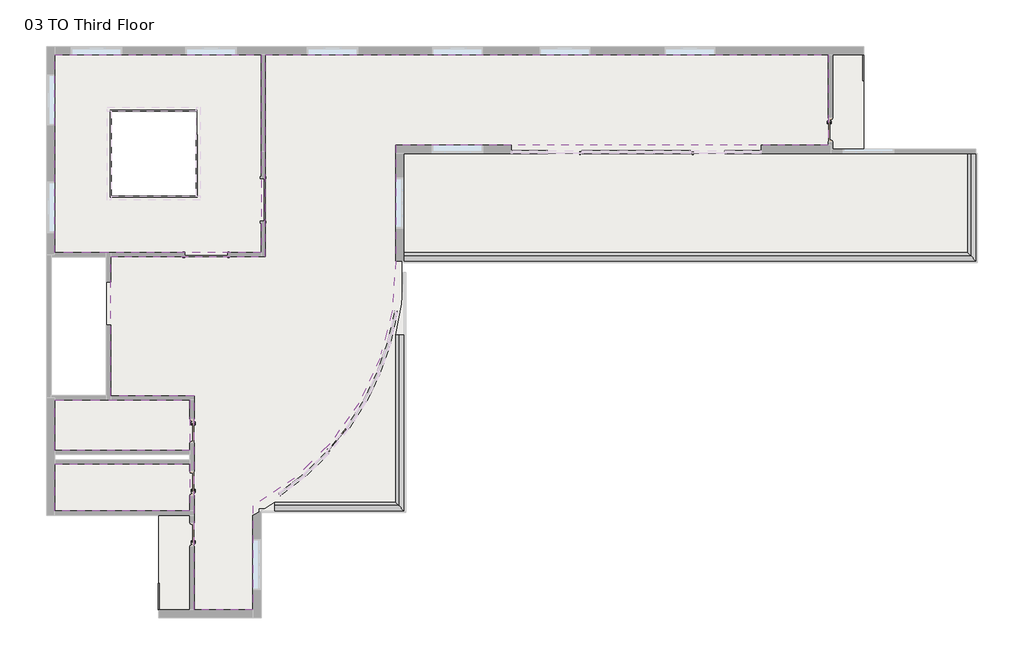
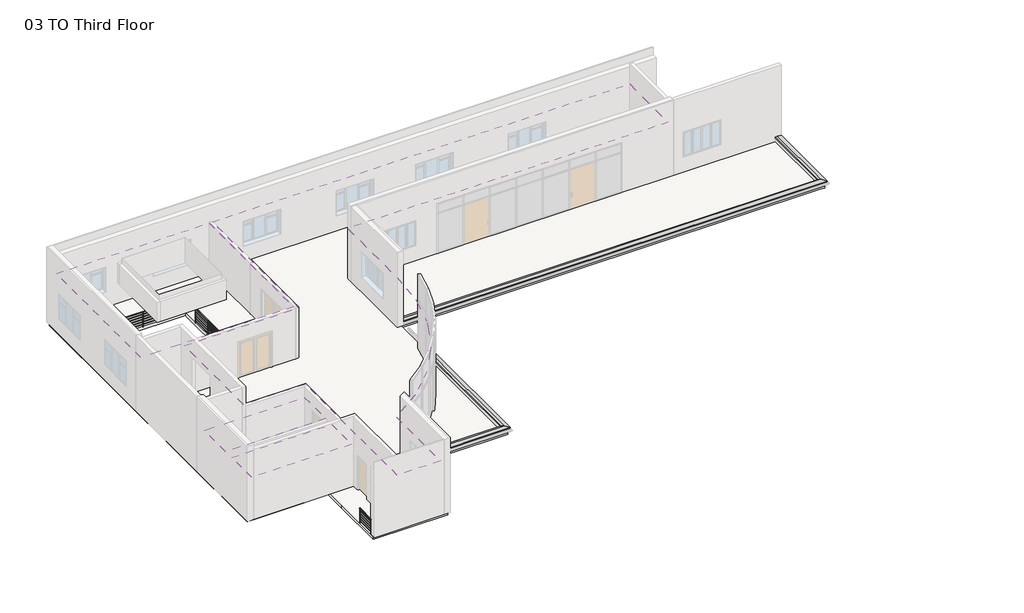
# One storey, part 3 of 3: 4 coverings, 4 proxies, 3 railings, 1 slab.
"""IFC4 building model written with IfcOpenShell, lengths in millimetres."""

from ifc_helpers import new_model, si_unit, point, frame, frame_2d, origin, place, context, project, spatial, polyline, circle_curve, ellipse_curve, trimmed, segment, composite_curve, outline, extrude, faceted_brep, element, save
from ifc_brep_helpers import plane_surface, cylinder_surface, advanced_brep

model = new_model("IFC4")

# Units and contexts
model_context = context("Model", 3, world=origin())
ifc_project = project(units=[si_unit("LENGTHUNIT", "METRE", prefix="MILLI")], contexts=[model_context])

# Site, building, storey
site = spatial("IfcSite", under=ifc_project)
building = spatial("IfcBuilding", under=site)
storey = spatial("IfcBuildingStorey", under=building, Name="03 TO Third Floor", Elevation=9144.0)

# Proxies
placement = place(None, origin())
element("IfcBuildingElementProxy", 1, Name="Wall Sweeps", at=placement, inside=storey, context=model_context, shape_type="Brep", body=[
    faceted_brep([(-4282.7273699, 106.1746638, 9410.7), (-4282.7273699, 334.7746638, 9448.8), (-4282.7273699, 461.7746638, 9410.7), (-4282.7273699, 461.7746638, 9347.2), (-4282.7273699, 106.1746638, 9347.2), (20101.2726301, 106.1746638, 9410.7), (20101.2726301, 106.1746638, 9347.2), (19745.6726301, 461.7746638, 9347.2), (19745.6726301, 461.7746638, 9410.7), (19872.6726301, 334.7746638, 9448.8)], [[[0, 1, 2, 3, 4]], [[5, 6, 7, 8, 9]], [[0, 4, 6, 5]], [[4, 3, 7, 6]], [[3, 2, 8, 7]], [[2, 1, 9, 8]], [[1, 0, 5, 9]]]),
])
element("IfcBuildingElementProxy", 2, Name="Wall Sweeps", at=placement, inside=storey, context=model_context, shape_type="Brep", body=[
    faceted_brep([(20101.2726301, 106.1746638, 9410.7), (19872.6726301, 334.7746638, 9448.8), (19745.6726301, 461.7746638, 9410.7), (19745.6726301, 461.7746638, 9347.2), (20101.2726301, 106.1746638, 9347.2), (20101.2726301, 4678.1746638, 9410.7), (20101.2726301, 4678.1746638, 9347.2), (19745.6726301, 4678.1746638, 9347.2), (19745.6726301, 4678.1746638, 9410.7), (19872.6726301, 4678.1746638, 9448.8), (20101.2726301, 461.7746638, 9347.2)], [[[0, 1, 2, 3, 4]], [[5, 6, 7, 8, 9]], [[0, 4, 10, 6, 5]], [[4, 3, 7, 6, 10]], [[3, 2, 8, 7]], [[2, 1, 9, 8]], [[1, 0, 5, 9]]]),
])
element("IfcBuildingElementProxy", 3, Name="Wall Sweeps", at=placement, inside=storey, context=model_context, shape_type="Brep", body=[
    faceted_brep([(-4282.7273699, -10561.8253362, 9410.7), (-4282.7273699, -10561.8253362, 9347.2), (-4638.3273699, -10206.2253362, 9347.2), (-4638.3273699, -10206.2253362, 9410.7), (-4511.3273699, -10333.2253362, 9448.8), (-9785.748781, -10561.8253362, 9410.7), (-9785.748781, -10333.2253362, 9448.8), (-9785.748781, -10206.2253362, 9410.7), (-9785.748781, -10206.2253362, 9347.2), (-9785.748781, -10561.8253362, 9347.2)], [[[0, 1, 2, 3, 4]], [[5, 6, 7, 8, 9]], [[1, 0, 5, 9]], [[2, 1, 9, 8]], [[3, 2, 8, 7]], [[4, 3, 7, 6]], [[0, 4, 6, 5]]]),
])
element("IfcBuildingElementProxy", 4, Name="Wall Sweeps", at=placement, inside=storey, context=model_context, shape_type="Brep", body=[
    faceted_brep([(-4282.7273699, -10561.8253362, 9410.7), (-4511.3273699, -10333.2253362, 9448.8), (-4638.3273699, -10206.2253362, 9410.7), (-4638.3273699, -10206.2253362, 9347.2), (-4282.7273699, -10561.8253362, 9347.2), (-4282.7273699, -3050.9908912, 9410.7), (-4282.7273699, -3050.9908912, 9347.2), (-4638.3273699, -3050.9908912, 9347.2), (-4638.3273699, -3050.9908912, 9410.7), (-4511.3273699, -3050.9908912, 9448.8), (-4282.7273699, -10206.2253362, 9347.2)], [[[0, 1, 2, 3, 4]], [[5, 6, 7, 8, 9]], [[1, 0, 5, 9]], [[2, 1, 9, 8]], [[3, 2, 8, 7]], [[4, 3, 7, 6, 10]], [[0, 4, 10, 6, 5]]]),
])

# Coverings
element("IfcCovering", 5, ObjectType="Ceiling_2' x 2' ACT System", at=placement, inside=storey, context=model_context, shape_type="SweptSolid", body=[
    extrude(outline(polyline([(-19167.1273699, -7988.4878362), (-19167.1273699, -5837.4253362), (-16881.1273699, -5837.4253362), (-13407.6773699, -5837.4253362), (-13407.6773699, -7988.4878362), (-19167.1273699, -7988.4878362)])), frame((0.0, 0.0, 11582.4), z_axis=(0.0, 0.0, 1.0), x_axis=(1.0, 0.0, 0.0)), (0.0, 0.0, 1.0), 57.15),
])
element("IfcCovering", 6, ObjectType="Ceiling_2' x 2' ACT System", at=placement, inside=storey, context=model_context, shape_type="SweptSolid", body=[
    extrude(outline(polyline([(-13407.6773699, -10561.8253362), (-19167.1273699, -10561.8253362), (-19167.1273699, -8563.1628362), (-13407.6773699, -8563.1628362), (-13407.6773699, -10561.8253362)])), frame((0.0, 0.0, 11582.4), z_axis=(0.0, 0.0, 1.0), x_axis=(1.0, 0.0, 0.0)), (0.0, 0.0, 1.0), 57.15),
])
element("IfcCovering", 7, ObjectType="Ceiling_GWB on Mtl. Stud", at=placement, inside=storey, context=model_context, shape_type="SweptSolid", body=[
    extrude(outline(composite_curve([segment(polyline([(-10194.5773699, 8894.5746638), (13802.0726301, 8894.5746638), (13802.0726301, 5033.7746638), (-4638.3273699, 5033.7746638), (-4638.3273699, 102.363521)]), True, "CONTINUOUS"), segment(trimmed(circle_curve(frame_2d((-16220.7273699, -147.8253362)), 11585.1018219), [point((-4638.3273699, 102.363521))], [point((-10734.3273699, -10351.4521063))], False, "CARTESIAN"), True, "CONTINUOUS"), segment(polyline([(-10734.3273699, -10351.4521063), (-10734.3273699, -14778.2253362), (-13223.5273699, -14778.2253362), (-13223.5273699, -10663.4253362), (-13223.5273699, -5653.2753362), (-16779.5273699, -5653.2753362), (-16779.5273699, 277.6246638), (-10194.5773699, 277.6246638), (-10194.5773699, 4770.2496638), (-10194.5773699, 8894.5746638)]), True, "CONTINUOUS")], self_intersect=False)), frame((0.0, 0.0, 12192.0), z_axis=(0.0, 0.0, 1.0), x_axis=(1.0, 0.0, 0.0)), (0.0, 0.0, 1.0), 85.725),
])
element("IfcCovering", 8, ObjectType="Ceiling_GWB on Mtl. Stud", at=placement, inside=storey, context=model_context, shape_type="SweptSolid", body=[
    extrude(outline(polyline([(-19167.1273699, 8894.5746638), (-10378.7273699, 8894.5746638), (-10378.7273699, 4770.2496638), (-10378.7273699, 461.7746638), (-16881.1273699, 461.7746638), (-19167.1273699, 461.7746638), (-19167.1273699, 8894.5746638)]), holes=[polyline([(-12972.7023699, 2700.1496638), (-12972.7023699, 6656.1996638), (-16928.7523699, 6656.1996638), (-16928.7523699, 2700.1496638), (-12972.7023699, 2700.1496638)])]), frame((0.0, 0.0, 12192.0), z_axis=(0.0, 0.0, 1.0), x_axis=(1.0, 0.0, 0.0)), (0.0, 0.0, 1.0), 85.725),
])

# Railings
element("IfcRailing", 9, ObjectType="Handrail - Pipe", at=placement, inside=storey, context=model_context, shape_type="SolidModel", body=[
    advanced_brep(
    [(-13140.9773699, 5488.9751825, 10039.35), (-13102.8773699, 5488.9751825, 10039.35), (-13140.9773699, 2868.4246638, 10039.35), (-13102.8773699, 2830.3246638, 10039.35), (-16760.4773699, 2868.4246638, 10039.35), (-16798.5773699, 2830.3246638, 10039.35), (-16760.4773699, 6487.9246638, 10039.35), (-16798.5773699, 6526.0246638, 10039.35), (-13121.9273699, 6487.9246638, 10039.35), (-13121.9273699, 6526.0246638, 10039.35)],
    [
        (0, 1, circle_curve(frame((-13121.9273699, 5488.9751825, 10039.35), z_axis=(0.0, 1.0, 0.0), x_axis=(1.0, 0.0, 0.0)), 19.05)),
        (1, 0, circle_curve(frame((-13121.9273699, 5488.9751825, 10039.35), z_axis=(0.0, 1.0, 0.0), x_axis=(1.0, 0.0, 0.0)), 19.05)),
        (0, 2),
        (2, 3, ellipse_curve(frame((-13121.9273699, 2849.3746638, 10039.35), z_axis=(0.7071067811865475, 0.7071067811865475, 0.0), x_axis=(-0.7071067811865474, 0.7071067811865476, 0.0)), 26.9407684, 19.05)),
        (3, 1),
        (3, 2, ellipse_curve(frame((-13121.9273699, 2849.3746638, 10039.35), z_axis=(0.7071067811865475, 0.7071067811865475, 0.0), x_axis=(-0.7071067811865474, 0.7071067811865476, 0.0)), 26.9407684, 19.05)),
        (2, 4),
        (4, 5, ellipse_curve(frame((-16779.5273699, 2849.3746638, 10039.35), z_axis=(0.7071067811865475, -0.7071067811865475, 0.0), x_axis=(0.7071067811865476, 0.7071067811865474, 0.0)), 26.9407684, 19.05)),
        (5, 3),
        (5, 4, ellipse_curve(frame((-16779.5273699, 2849.3746638, 10039.35), z_axis=(0.7071067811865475, -0.7071067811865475, 0.0), x_axis=(0.7071067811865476, 0.7071067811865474, 0.0)), 26.9407684, 19.05)),
        (4, 6),
        (6, 7, ellipse_curve(frame((-16779.5273699, 6506.9746638, 10039.35), z_axis=(-0.7071067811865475, -0.7071067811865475, 0.0), x_axis=(0.7071067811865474, -0.7071067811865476, 0.0)), 26.9407684, 19.05)),
        (7, 5),
        (7, 6, ellipse_curve(frame((-16779.5273699, 6506.9746638, 10039.35), z_axis=(-0.7071067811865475, -0.7071067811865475, 0.0), x_axis=(0.7071067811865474, -0.7071067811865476, 0.0)), 26.9407684, 19.05)),
        (8, 9, circle_curve(frame((-13121.9273699, 6506.9746638, 10039.35), z_axis=(1.0, 0.0, 0.0), x_axis=(0.0, 1.0, 0.0)), 19.05)),
        (9, 8, circle_curve(frame((-13121.9273699, 6506.9746638, 10039.35), z_axis=(1.0, 0.0, 0.0), x_axis=(0.0, 1.0, 0.0)), 19.05)),
        (6, 8),
        (9, 7),
    ],
    [
        plane_surface(frame((-13121.9273699, 5488.9751825, 10058.4), z_axis=(0.0, 1.0, 0.0), x_axis=(0.0, 0.0, -1.0))),
        cylinder_surface(frame((-13121.9273699, 5488.9751825, 10039.35), z_axis=(0.0, 1.0, 0.0), x_axis=(1.0, 0.0, 0.0)), 19.05),
        cylinder_surface(frame((-13121.9273699, 2849.3746638, 10039.35), z_axis=(1.0, 0.0, 0.0), x_axis=(0.0, -1.0, 0.0)), 19.05),
        cylinder_surface(frame((-16779.5273699, 2849.3746638, 10039.35), z_axis=(0.0, -1.0, 0.0), x_axis=(-1.0, 0.0, 0.0)), 19.05),
        plane_surface(frame((-13121.9273699, 6506.9746638, 10058.4), z_axis=(1.0, 0.0, 0.0), x_axis=(0.0, 1.0, 0.0))),
        cylinder_surface(frame((-16779.5273699, 6506.9746638, 10039.35), z_axis=(-1.0, 0.0, 0.0), x_axis=(0.0, 1.0, 0.0)), 19.05),
    ],
    [
        (0, [[1, 2]]),
        (1, [[-1, 3, 4, 5]]),
        (1, [[-2, -5, 6, -3]]),
        (2, [[-4, 7, 8, 9]]),
        (2, [[-6, -9, 10, -7]]),
        (3, [[-8, 11, 12, 13]]),
        (3, [[-10, -13, 14, -11]]),
        (4, [[15, 16]]),
        (5, [[-12, 17, -16, 18]]),
        (5, [[-14, -18, -15, -17]]),
    ],
),
    advanced_brep(
    [(-13109.2273699, 5488.9751825, 9893.3), (-13134.6273699, 5488.9751825, 9893.3), (-13109.2273699, 2836.6746638, 9893.3), (-13134.6273699, 2862.0746638, 9893.3), (-16792.2273699, 2836.6746638, 9893.3), (-16766.8273699, 2862.0746638, 9893.3), (-16792.2273699, 6519.6746638, 9893.3), (-16766.8273699, 6494.2746638, 9893.3), (-13121.9273699, 6519.6746638, 9893.3), (-13121.9273699, 6494.2746638, 9893.3)],
    [
        (0, 1, circle_curve(frame((-13121.9273699, 5488.9751825, 9893.3), z_axis=(0.0, 1.0, 0.0), x_axis=(-1.0, 0.0, 0.0)), 12.7)),
        (1, 0, circle_curve(frame((-13121.9273699, 5488.9751825, 9893.3), z_axis=(0.0, 1.0, 0.0), x_axis=(-1.0, 0.0, 0.0)), 12.7)),
        (0, 2),
        (2, 3, ellipse_curve(frame((-13121.9273699, 2849.3746638, 9893.3), z_axis=(0.7071067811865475, 0.7071067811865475, 0.0), x_axis=(-0.7071067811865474, 0.7071067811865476, 0.0)), 17.9605122, 12.7)),
        (3, 1),
        (3, 2, ellipse_curve(frame((-13121.9273699, 2849.3746638, 9893.3), z_axis=(0.7071067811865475, 0.7071067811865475, 0.0), x_axis=(-0.7071067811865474, 0.7071067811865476, 0.0)), 17.9605122, 12.7)),
        (2, 4),
        (4, 5, ellipse_curve(frame((-16779.5273699, 2849.3746638, 9893.3), z_axis=(0.7071067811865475, -0.7071067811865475, 0.0), x_axis=(0.7071067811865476, 0.7071067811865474, 0.0)), 17.9605122, 12.7)),
        (5, 3),
        (5, 4, ellipse_curve(frame((-16779.5273699, 2849.3746638, 9893.3), z_axis=(0.7071067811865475, -0.7071067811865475, 0.0), x_axis=(0.7071067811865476, 0.7071067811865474, 0.0)), 17.9605122, 12.7)),
        (4, 6),
        (6, 7, ellipse_curve(frame((-16779.5273699, 6506.9746638, 9893.3), z_axis=(-0.7071067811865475, -0.7071067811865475, 0.0), x_axis=(0.7071067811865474, -0.7071067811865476, 0.0)), 17.9605122, 12.7)),
        (7, 5),
        (7, 6, ellipse_curve(frame((-16779.5273699, 6506.9746638, 9893.3), z_axis=(-0.7071067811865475, -0.7071067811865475, 0.0), x_axis=(0.7071067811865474, -0.7071067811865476, 0.0)), 17.9605122, 12.7)),
        (8, 9, circle_curve(frame((-13121.9273699, 6506.9746638, 9893.3), z_axis=(1.0, 0.0, 0.0), x_axis=(0.0, -1.0, 0.0)), 12.7)),
        (9, 8, circle_curve(frame((-13121.9273699, 6506.9746638, 9893.3), z_axis=(1.0, 0.0, 0.0), x_axis=(0.0, -1.0, 0.0)), 12.7)),
        (6, 8),
        (9, 7),
    ],
    [
        plane_surface(frame((-13121.9273699, 5488.9751825, 9906.0), z_axis=(0.0, 1.0, 0.0), x_axis=(0.0, 0.0, -1.0))),
        cylinder_surface(frame((-13121.9273699, 5488.9751825, 9893.3), z_axis=(0.0, 1.0, 0.0), x_axis=(-1.0, 0.0, 0.0)), 12.7),
        cylinder_surface(frame((-13121.9273699, 2849.3746638, 9893.3), z_axis=(1.0, 0.0, 0.0), x_axis=(0.0, 1.0, 0.0)), 12.7),
        cylinder_surface(frame((-16779.5273699, 2849.3746638, 9893.3), z_axis=(0.0, -1.0, 0.0), x_axis=(1.0, 0.0, 0.0)), 12.7),
        plane_surface(frame((-13121.9273699, 6506.9746638, 9906.0), z_axis=(1.0, 0.0, 0.0), x_axis=(0.0, 1.0, 0.0))),
        cylinder_surface(frame((-16779.5273699, 6506.9746638, 9893.3), z_axis=(-1.0, 0.0, 0.0), x_axis=(0.0, -1.0, 0.0)), 12.7),
    ],
    [
        (0, [[1, 2]]),
        (1, [[-1, 3, 4, 5]]),
        (1, [[-2, -5, 6, -3]]),
        (2, [[-4, 7, 8, 9]]),
        (2, [[-6, -9, 10, -7]]),
        (3, [[-8, 11, 12, 13]]),
        (3, [[-10, -13, 14, -11]]),
        (4, [[15, 16]]),
        (5, [[-12, 17, -16, 18]]),
        (5, [[-14, -18, -15, -17]]),
    ],
),
    advanced_brep(
    [(-13109.2273699, 5488.9751825, 9740.9), (-13134.6273699, 5488.9751825, 9740.9), (-13109.2273699, 2836.6746638, 9740.9), (-13134.6273699, 2862.0746638, 9740.9), (-16792.2273699, 2836.6746638, 9740.9), (-16766.8273699, 2862.0746638, 9740.9), (-16792.2273699, 6519.6746638, 9740.9), (-16766.8273699, 6494.2746638, 9740.9), (-13121.9273699, 6519.6746638, 9740.9), (-13121.9273699, 6494.2746638, 9740.9)],
    [
        (0, 1, circle_curve(frame((-13121.9273699, 5488.9751825, 9740.9), z_axis=(0.0, 1.0, 0.0), x_axis=(-1.0, 0.0, 0.0)), 12.7)),
        (1, 0, circle_curve(frame((-13121.9273699, 5488.9751825, 9740.9), z_axis=(0.0, 1.0, 0.0), x_axis=(-1.0, 0.0, 0.0)), 12.7)),
        (0, 2),
        (2, 3, ellipse_curve(frame((-13121.9273699, 2849.3746638, 9740.9), z_axis=(0.7071067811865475, 0.7071067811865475, 0.0), x_axis=(-0.7071067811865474, 0.7071067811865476, 0.0)), 17.9605122, 12.7)),
        (3, 1),
        (3, 2, ellipse_curve(frame((-13121.9273699, 2849.3746638, 9740.9), z_axis=(0.7071067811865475, 0.7071067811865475, 0.0), x_axis=(-0.7071067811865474, 0.7071067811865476, 0.0)), 17.9605122, 12.7)),
        (2, 4),
        (4, 5, ellipse_curve(frame((-16779.5273699, 2849.3746638, 9740.9), z_axis=(0.7071067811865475, -0.7071067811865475, 0.0), x_axis=(0.7071067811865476, 0.7071067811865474, 0.0)), 17.9605122, 12.7)),
        (5, 3),
        (5, 4, ellipse_curve(frame((-16779.5273699, 2849.3746638, 9740.9), z_axis=(0.7071067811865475, -0.7071067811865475, 0.0), x_axis=(0.7071067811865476, 0.7071067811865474, 0.0)), 17.9605122, 12.7)),
        (4, 6),
        (6, 7, ellipse_curve(frame((-16779.5273699, 6506.9746638, 9740.9), z_axis=(-0.7071067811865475, -0.7071067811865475, 0.0), x_axis=(0.7071067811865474, -0.7071067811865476, 0.0)), 17.9605122, 12.7)),
        (7, 5),
        (7, 6, ellipse_curve(frame((-16779.5273699, 6506.9746638, 9740.9), z_axis=(-0.7071067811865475, -0.7071067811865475, 0.0), x_axis=(0.7071067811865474, -0.7071067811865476, 0.0)), 17.9605122, 12.7)),
        (8, 9, circle_curve(frame((-13121.9273699, 6506.9746638, 9740.9), z_axis=(1.0, 0.0, 0.0), x_axis=(0.0, -1.0, 0.0)), 12.7)),
        (9, 8, circle_curve(frame((-13121.9273699, 6506.9746638, 9740.9), z_axis=(1.0, 0.0, 0.0), x_axis=(0.0, -1.0, 0.0)), 12.7)),
        (6, 8),
        (9, 7),
    ],
    [
        plane_surface(frame((-13121.9273699, 5488.9751825, 9753.6), z_axis=(0.0, 1.0, 0.0), x_axis=(0.0, 0.0, -1.0))),
        cylinder_surface(frame((-13121.9273699, 5488.9751825, 9740.9), z_axis=(0.0, 1.0, 0.0), x_axis=(-1.0, 0.0, 0.0)), 12.7),
        cylinder_surface(frame((-13121.9273699, 2849.3746638, 9740.9), z_axis=(1.0, 0.0, 0.0), x_axis=(0.0, 1.0, 0.0)), 12.7),
        cylinder_surface(frame((-16779.5273699, 2849.3746638, 9740.9), z_axis=(0.0, -1.0, 0.0), x_axis=(1.0, 0.0, 0.0)), 12.7),
        plane_surface(frame((-13121.9273699, 6506.9746638, 9753.6), z_axis=(1.0, 0.0, 0.0), x_axis=(0.0, 1.0, 0.0))),
        cylinder_surface(frame((-16779.5273699, 6506.9746638, 9740.9), z_axis=(-1.0, 0.0, 0.0), x_axis=(0.0, -1.0, 0.0)), 12.7),
    ],
    [
        (0, [[1, 2]]),
        (1, [[-1, 3, 4, 5]]),
        (1, [[-2, -5, 6, -3]]),
        (2, [[-4, 7, 8, 9]]),
        (2, [[-6, -9, 10, -7]]),
        (3, [[-8, 11, 12, 13]]),
        (3, [[-10, -13, 14, -11]]),
        (4, [[15, 16]]),
        (5, [[-12, 17, -16, 18]]),
        (5, [[-14, -18, -15, -17]]),
    ],
),
    advanced_brep(
    [(-13109.2273699, 5488.9751825, 9588.5), (-13134.6273699, 5488.9751825, 9588.5), (-13109.2273699, 2836.6746638, 9588.5), (-13134.6273699, 2862.0746638, 9588.5), (-16792.2273699, 2836.6746638, 9588.5), (-16766.8273699, 2862.0746638, 9588.5), (-16792.2273699, 6519.6746638, 9588.5), (-16766.8273699, 6494.2746638, 9588.5), (-13121.9273699, 6519.6746638, 9588.5), (-13121.9273699, 6494.2746638, 9588.5)],
    [
        (0, 1, circle_curve(frame((-13121.9273699, 5488.9751825, 9588.5), z_axis=(0.0, 1.0, 0.0), x_axis=(-1.0, 0.0, 0.0)), 12.7)),
        (1, 0, circle_curve(frame((-13121.9273699, 5488.9751825, 9588.5), z_axis=(0.0, 1.0, 0.0), x_axis=(-1.0, 0.0, 0.0)), 12.7)),
        (0, 2),
        (2, 3, ellipse_curve(frame((-13121.9273699, 2849.3746638, 9588.5), z_axis=(0.7071067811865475, 0.7071067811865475, 0.0), x_axis=(-0.7071067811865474, 0.7071067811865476, 0.0)), 17.9605122, 12.7)),
        (3, 1),
        (3, 2, ellipse_curve(frame((-13121.9273699, 2849.3746638, 9588.5), z_axis=(0.7071067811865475, 0.7071067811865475, 0.0), x_axis=(-0.7071067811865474, 0.7071067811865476, 0.0)), 17.9605122, 12.7)),
        (2, 4),
        (4, 5, ellipse_curve(frame((-16779.5273699, 2849.3746638, 9588.5), z_axis=(0.7071067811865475, -0.7071067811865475, 0.0), x_axis=(0.7071067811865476, 0.7071067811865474, 0.0)), 17.9605122, 12.7)),
        (5, 3),
        (5, 4, ellipse_curve(frame((-16779.5273699, 2849.3746638, 9588.5), z_axis=(0.7071067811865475, -0.7071067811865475, 0.0), x_axis=(0.7071067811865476, 0.7071067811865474, 0.0)), 17.9605122, 12.7)),
        (4, 6),
        (6, 7, ellipse_curve(frame((-16779.5273699, 6506.9746638, 9588.5), z_axis=(-0.7071067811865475, -0.7071067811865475, 0.0), x_axis=(0.7071067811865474, -0.7071067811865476, 0.0)), 17.9605122, 12.7)),
        (7, 5),
        (7, 6, ellipse_curve(frame((-16779.5273699, 6506.9746638, 9588.5), z_axis=(-0.7071067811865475, -0.7071067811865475, 0.0), x_axis=(0.7071067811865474, -0.7071067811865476, 0.0)), 17.9605122, 12.7)),
        (8, 9, circle_curve(frame((-13121.9273699, 6506.9746638, 9588.5), z_axis=(1.0, 0.0, 0.0), x_axis=(0.0, -1.0, 0.0)), 12.7)),
        (9, 8, circle_curve(frame((-13121.9273699, 6506.9746638, 9588.5), z_axis=(1.0, 0.0, 0.0), x_axis=(0.0, -1.0, 0.0)), 12.7)),
        (6, 8),
        (9, 7),
    ],
    [
        plane_surface(frame((-13121.9273699, 5488.9751825, 9601.2), z_axis=(0.0, 1.0, 0.0), x_axis=(0.0, 0.0, -1.0))),
        cylinder_surface(frame((-13121.9273699, 5488.9751825, 9588.5), z_axis=(0.0, 1.0, 0.0), x_axis=(-1.0, 0.0, 0.0)), 12.7),
        cylinder_surface(frame((-13121.9273699, 2849.3746638, 9588.5), z_axis=(1.0, 0.0, 0.0), x_axis=(0.0, 1.0, 0.0)), 12.7),
        cylinder_surface(frame((-16779.5273699, 2849.3746638, 9588.5), z_axis=(0.0, -1.0, 0.0), x_axis=(1.0, 0.0, 0.0)), 12.7),
        plane_surface(frame((-13121.9273699, 6506.9746638, 9601.2), z_axis=(1.0, 0.0, 0.0), x_axis=(0.0, 1.0, 0.0))),
        cylinder_surface(frame((-16779.5273699, 6506.9746638, 9588.5), z_axis=(-1.0, 0.0, 0.0), x_axis=(0.0, -1.0, 0.0)), 12.7),
    ],
    [
        (0, [[1, 2]]),
        (1, [[-1, 3, 4, 5]]),
        (1, [[-2, -5, 6, -3]]),
        (2, [[-4, 7, 8, 9]]),
        (2, [[-6, -9, 10, -7]]),
        (3, [[-8, 11, 12, 13]]),
        (3, [[-10, -13, 14, -11]]),
        (4, [[15, 16]]),
        (5, [[-12, 17, -16, 18]]),
        (5, [[-14, -18, -15, -17]]),
    ],
),
    advanced_brep(
    [(-13109.2273699, 5488.9751825, 9436.1), (-13134.6273699, 5488.9751825, 9436.1), (-13109.2273699, 2836.6746638, 9436.1), (-13134.6273699, 2862.0746638, 9436.1), (-16792.2273699, 2836.6746638, 9436.1), (-16766.8273699, 2862.0746638, 9436.1), (-16792.2273699, 6519.6746638, 9436.1), (-16766.8273699, 6494.2746638, 9436.1), (-13121.9273699, 6519.6746638, 9436.1), (-13121.9273699, 6494.2746638, 9436.1)],
    [
        (0, 1, circle_curve(frame((-13121.9273699, 5488.9751825, 9436.1), z_axis=(0.0, 1.0, 0.0), x_axis=(-1.0, 0.0, 0.0)), 12.7)),
        (1, 0, circle_curve(frame((-13121.9273699, 5488.9751825, 9436.1), z_axis=(0.0, 1.0, 0.0), x_axis=(-1.0, 0.0, 0.0)), 12.7)),
        (0, 2),
        (2, 3, ellipse_curve(frame((-13121.9273699, 2849.3746638, 9436.1), z_axis=(0.7071067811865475, 0.7071067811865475, 0.0), x_axis=(-0.7071067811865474, 0.7071067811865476, 0.0)), 17.9605122, 12.7)),
        (3, 1),
        (3, 2, ellipse_curve(frame((-13121.9273699, 2849.3746638, 9436.1), z_axis=(0.7071067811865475, 0.7071067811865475, 0.0), x_axis=(-0.7071067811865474, 0.7071067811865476, 0.0)), 17.9605122, 12.7)),
        (2, 4),
        (4, 5, ellipse_curve(frame((-16779.5273699, 2849.3746638, 9436.1), z_axis=(0.7071067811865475, -0.7071067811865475, 0.0), x_axis=(0.7071067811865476, 0.7071067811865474, 0.0)), 17.9605122, 12.7)),
        (5, 3),
        (5, 4, ellipse_curve(frame((-16779.5273699, 2849.3746638, 9436.1), z_axis=(0.7071067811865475, -0.7071067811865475, 0.0), x_axis=(0.7071067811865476, 0.7071067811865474, 0.0)), 17.9605122, 12.7)),
        (4, 6),
        (6, 7, ellipse_curve(frame((-16779.5273699, 6506.9746638, 9436.1), z_axis=(-0.7071067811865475, -0.7071067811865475, 0.0), x_axis=(0.7071067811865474, -0.7071067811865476, 0.0)), 17.9605122, 12.7)),
        (7, 5),
        (7, 6, ellipse_curve(frame((-16779.5273699, 6506.9746638, 9436.1), z_axis=(-0.7071067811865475, -0.7071067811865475, 0.0), x_axis=(0.7071067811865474, -0.7071067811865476, 0.0)), 17.9605122, 12.7)),
        (8, 9, circle_curve(frame((-13121.9273699, 6506.9746638, 9436.1), z_axis=(1.0, 0.0, 0.0), x_axis=(0.0, -1.0, 0.0)), 12.7)),
        (9, 8, circle_curve(frame((-13121.9273699, 6506.9746638, 9436.1), z_axis=(1.0, 0.0, 0.0), x_axis=(0.0, -1.0, 0.0)), 12.7)),
        (6, 8),
        (9, 7),
    ],
    [
        plane_surface(frame((-13121.9273699, 5488.9751825, 9448.8), z_axis=(0.0, 1.0, 0.0), x_axis=(0.0, 0.0, -1.0))),
        cylinder_surface(frame((-13121.9273699, 5488.9751825, 9436.1), z_axis=(0.0, 1.0, 0.0), x_axis=(-1.0, 0.0, 0.0)), 12.7),
        cylinder_surface(frame((-13121.9273699, 2849.3746638, 9436.1), z_axis=(1.0, 0.0, 0.0), x_axis=(0.0, 1.0, 0.0)), 12.7),
        cylinder_surface(frame((-16779.5273699, 2849.3746638, 9436.1), z_axis=(0.0, -1.0, 0.0), x_axis=(1.0, 0.0, 0.0)), 12.7),
        plane_surface(frame((-13121.9273699, 6506.9746638, 9448.8), z_axis=(1.0, 0.0, 0.0), x_axis=(0.0, 1.0, 0.0))),
        cylinder_surface(frame((-16779.5273699, 6506.9746638, 9436.1), z_axis=(-1.0, 0.0, 0.0), x_axis=(0.0, -1.0, 0.0)), 12.7),
    ],
    [
        (0, [[1, 2]]),
        (1, [[-1, 3, 4, 5]]),
        (1, [[-2, -5, 6, -3]]),
        (2, [[-4, 7, 8, 9]]),
        (2, [[-6, -9, 10, -7]]),
        (3, [[-8, 11, 12, 13]]),
        (3, [[-10, -13, 14, -11]]),
        (4, [[15, 16]]),
        (5, [[-12, 17, -16, 18]]),
        (5, [[-14, -18, -15, -17]]),
    ],
),
    advanced_brep(
    [(-13109.2273699, 5488.9751825, 9283.7), (-13134.6273699, 5488.9751825, 9283.7), (-13109.2273699, 2836.6746638, 9283.7), (-13134.6273699, 2862.0746638, 9283.7), (-16792.2273699, 2836.6746638, 9283.7), (-16766.8273699, 2862.0746638, 9283.7), (-16792.2273699, 6519.6746638, 9283.7), (-16766.8273699, 6494.2746638, 9283.7), (-13121.9273699, 6519.6746638, 9283.7), (-13121.9273699, 6494.2746638, 9283.7)],
    [
        (0, 1, circle_curve(frame((-13121.9273699, 5488.9751825, 9283.7), z_axis=(0.0, 1.0, 0.0), x_axis=(-1.0, 0.0, 0.0)), 12.7)),
        (1, 0, circle_curve(frame((-13121.9273699, 5488.9751825, 9283.7), z_axis=(0.0, 1.0, 0.0), x_axis=(-1.0, 0.0, 0.0)), 12.7)),
        (0, 2),
        (2, 3, ellipse_curve(frame((-13121.9273699, 2849.3746638, 9283.7), z_axis=(0.7071067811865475, 0.7071067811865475, 0.0), x_axis=(-0.7071067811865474, 0.7071067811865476, 0.0)), 17.9605122, 12.7)),
        (3, 1),
        (3, 2, ellipse_curve(frame((-13121.9273699, 2849.3746638, 9283.7), z_axis=(0.7071067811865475, 0.7071067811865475, 0.0), x_axis=(-0.7071067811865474, 0.7071067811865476, 0.0)), 17.9605122, 12.7)),
        (2, 4),
        (4, 5, ellipse_curve(frame((-16779.5273699, 2849.3746638, 9283.7), z_axis=(0.7071067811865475, -0.7071067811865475, 0.0), x_axis=(0.7071067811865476, 0.7071067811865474, 0.0)), 17.9605122, 12.7)),
        (5, 3),
        (5, 4, ellipse_curve(frame((-16779.5273699, 2849.3746638, 9283.7), z_axis=(0.7071067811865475, -0.7071067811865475, 0.0), x_axis=(0.7071067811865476, 0.7071067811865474, 0.0)), 17.9605122, 12.7)),
        (4, 6),
        (6, 7, ellipse_curve(frame((-16779.5273699, 6506.9746638, 9283.7), z_axis=(-0.7071067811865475, -0.7071067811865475, 0.0), x_axis=(0.7071067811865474, -0.7071067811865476, 0.0)), 17.9605122, 12.7)),
        (7, 5),
        (7, 6, ellipse_curve(frame((-16779.5273699, 6506.9746638, 9283.7), z_axis=(-0.7071067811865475, -0.7071067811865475, 0.0), x_axis=(0.7071067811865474, -0.7071067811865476, 0.0)), 17.9605122, 12.7)),
        (8, 9, circle_curve(frame((-13121.9273699, 6506.9746638, 9283.7), z_axis=(1.0, 0.0, 0.0), x_axis=(0.0, -1.0, 0.0)), 12.7)),
        (9, 8, circle_curve(frame((-13121.9273699, 6506.9746638, 9283.7), z_axis=(1.0, 0.0, 0.0), x_axis=(0.0, -1.0, 0.0)), 12.7)),
        (6, 8),
        (9, 7),
    ],
    [
        plane_surface(frame((-13121.9273699, 5488.9751825, 9296.4), z_axis=(0.0, 1.0, 0.0), x_axis=(0.0, 0.0, -1.0))),
        cylinder_surface(frame((-13121.9273699, 5488.9751825, 9283.7), z_axis=(0.0, 1.0, 0.0), x_axis=(-1.0, 0.0, 0.0)), 12.7),
        cylinder_surface(frame((-13121.9273699, 2849.3746638, 9283.7), z_axis=(1.0, 0.0, 0.0), x_axis=(0.0, 1.0, 0.0)), 12.7),
        cylinder_surface(frame((-16779.5273699, 2849.3746638, 9283.7), z_axis=(0.0, -1.0, 0.0), x_axis=(1.0, 0.0, 0.0)), 12.7),
        plane_surface(frame((-13121.9273699, 6506.9746638, 9296.4), z_axis=(1.0, 0.0, 0.0), x_axis=(0.0, 1.0, 0.0))),
        cylinder_surface(frame((-16779.5273699, 6506.9746638, 9283.7), z_axis=(-1.0, 0.0, 0.0), x_axis=(0.0, -1.0, 0.0)), 12.7),
    ],
    [
        (0, [[1, 2]]),
        (1, [[-1, 3, 4, 5]]),
        (1, [[-2, -5, 6, -3]]),
        (2, [[-4, 7, 8, 9]]),
        (2, [[-6, -9, 10, -7]]),
        (3, [[-8, 11, 12, 13]]),
        (3, [[-10, -13, 14, -11]]),
        (4, [[15, 16]]),
        (5, [[-12, 17, -16, 18]]),
        (5, [[-14, -18, -15, -17]]),
    ],
),
    extrude(outline(composite_curve([segment(trimmed(circle_curve(frame_2d((-14341.1273699, 6506.9746638)), 12.7), [point((-14341.1273699, 6519.6746638))], [point((-14341.1273699, 6494.2746638))], False, "CARTESIAN"), True, "CONTINUOUS"), segment(trimmed(circle_curve(frame_2d((-14341.1273699, 6506.9746638)), 12.7), [point((-14341.1273699, 6494.2746638))], [point((-14341.1273699, 6519.6746638))], False, "CARTESIAN"), True, "CONTINUOUS")], self_intersect=False)), frame((0.0, 0.0, 9144.0), z_axis=(0.0, 0.0, 1.0), x_axis=(1.0, 0.0, 0.0)), (0.0, 0.0, 1.0), 876.3),
    extrude(outline(composite_curve([segment(trimmed(circle_curve(frame_2d((-15560.3273699, 6506.9746638)), 12.7), [point((-15560.3273699, 6519.6746638))], [point((-15560.3273699, 6494.2746638))], False, "CARTESIAN"), True, "CONTINUOUS"), segment(trimmed(circle_curve(frame_2d((-15560.3273699, 6506.9746638)), 12.7), [point((-15560.3273699, 6494.2746638))], [point((-15560.3273699, 6519.6746638))], False, "CARTESIAN"), True, "CONTINUOUS")], self_intersect=False)), frame((0.0, 0.0, 9144.0), z_axis=(0.0, 0.0, 1.0), x_axis=(1.0, 0.0, 0.0)), (0.0, 0.0, 1.0), 876.3),
    extrude(outline(composite_curve([segment(trimmed(circle_curve(frame_2d((-16779.5273699, 5287.7746638)), 12.7), [point((-16792.2273699, 5287.7746638))], [point((-16766.8273699, 5287.7746638))], False, "CARTESIAN"), True, "CONTINUOUS"), segment(trimmed(circle_curve(frame_2d((-16779.5273699, 5287.7746638)), 12.7), [point((-16766.8273699, 5287.7746638))], [point((-16792.2273699, 5287.7746638))], False, "CARTESIAN"), True, "CONTINUOUS")], self_intersect=False)), frame((0.0, 0.0, 9144.0), z_axis=(0.0, 0.0, 1.0), x_axis=(1.0, 0.0, 0.0)), (0.0, 0.0, 1.0), 876.3),
    extrude(outline(composite_curve([segment(trimmed(circle_curve(frame_2d((-16779.5273699, 4068.5746638)), 12.7), [point((-16792.2273699, 4068.5746638))], [point((-16766.8273699, 4068.5746638))], False, "CARTESIAN"), True, "CONTINUOUS"), segment(trimmed(circle_curve(frame_2d((-16779.5273699, 4068.5746638)), 12.7), [point((-16766.8273699, 4068.5746638))], [point((-16792.2273699, 4068.5746638))], False, "CARTESIAN"), True, "CONTINUOUS")], self_intersect=False)), frame((0.0, 0.0, 9144.0), z_axis=(0.0, 0.0, 1.0), x_axis=(1.0, 0.0, 0.0)), (0.0, 0.0, 1.0), 876.3),
    extrude(outline(composite_curve([segment(trimmed(circle_curve(frame_2d((-15560.3273699, 2849.3746638)), 12.7), [point((-15560.3273699, 2836.6746638))], [point((-15560.3273699, 2862.0746638))], False, "CARTESIAN"), True, "CONTINUOUS"), segment(trimmed(circle_curve(frame_2d((-15560.3273699, 2849.3746638)), 12.7), [point((-15560.3273699, 2862.0746638))], [point((-15560.3273699, 2836.6746638))], False, "CARTESIAN"), True, "CONTINUOUS")], self_intersect=False)), frame((0.0, 0.0, 9144.0), z_axis=(0.0, 0.0, 1.0), x_axis=(1.0, 0.0, 0.0)), (0.0, 0.0, 1.0), 876.3),
    extrude(outline(composite_curve([segment(trimmed(circle_curve(frame_2d((-14341.1273699, 2849.3746638)), 12.7), [point((-14341.1273699, 2836.6746638))], [point((-14341.1273699, 2862.0746638))], False, "CARTESIAN"), True, "CONTINUOUS"), segment(trimmed(circle_curve(frame_2d((-14341.1273699, 2849.3746638)), 12.7), [point((-14341.1273699, 2862.0746638))], [point((-14341.1273699, 2836.6746638))], False, "CARTESIAN"), True, "CONTINUOUS")], self_intersect=False)), frame((0.0, 0.0, 9144.0), z_axis=(0.0, 0.0, 1.0), x_axis=(1.0, 0.0, 0.0)), (0.0, 0.0, 1.0), 876.3),
    extrude(outline(composite_curve([segment(trimmed(circle_curve(frame_2d((-13121.9273699, 3050.5751825)), 12.7), [point((-13109.2273699, 3050.5751825))], [point((-13134.6273699, 3050.5751825))], False, "CARTESIAN"), True, "CONTINUOUS"), segment(trimmed(circle_curve(frame_2d((-13121.9273699, 3050.5751825)), 12.7), [point((-13134.6273699, 3050.5751825))], [point((-13109.2273699, 3050.5751825))], False, "CARTESIAN"), True, "CONTINUOUS")], self_intersect=False)), frame((0.0, 0.0, 9144.0), z_axis=(0.0, 0.0, 1.0), x_axis=(1.0, 0.0, 0.0)), (0.0, 0.0, 1.0), 876.3),
    extrude(outline(composite_curve([segment(trimmed(circle_curve(frame_2d((-13121.9273699, 4269.7751825)), 12.7), [point((-13109.2273699, 4269.7751825))], [point((-13134.6273699, 4269.7751825))], False, "CARTESIAN"), True, "CONTINUOUS"), segment(trimmed(circle_curve(frame_2d((-13121.9273699, 4269.7751825)), 12.7), [point((-13134.6273699, 4269.7751825))], [point((-13109.2273699, 4269.7751825))], False, "CARTESIAN"), True, "CONTINUOUS")], self_intersect=False)), frame((0.0, 0.0, 9144.0), z_axis=(0.0, 0.0, 1.0), x_axis=(1.0, 0.0, 0.0)), (0.0, 0.0, 1.0), 876.3),
    extrude(outline(composite_curve([segment(trimmed(circle_curve(frame_2d((-16779.5273699, 6506.9746638)), 12.7), [point((-16792.2273699, 6506.9746638))], [point((-16766.8273699, 6506.9746638))], False, "CARTESIAN"), True, "CONTINUOUS"), segment(trimmed(circle_curve(frame_2d((-16779.5273699, 6506.9746638)), 12.7), [point((-16766.8273699, 6506.9746638))], [point((-16792.2273699, 6506.9746638))], False, "CARTESIAN"), True, "CONTINUOUS")], self_intersect=False)), frame((0.0, 0.0, 9144.0), z_axis=(0.0, 0.0, 1.0), x_axis=(1.0, 0.0, 0.0)), (0.0, 0.0, 1.0), 876.3),
    extrude(outline(composite_curve([segment(trimmed(circle_curve(frame_2d((-16779.5273699, 2849.3746638)), 12.7), [point((-16779.5273699, 2836.6746638))], [point((-16779.5273699, 2862.0746638))], False, "CARTESIAN"), True, "CONTINUOUS"), segment(trimmed(circle_curve(frame_2d((-16779.5273699, 2849.3746638)), 12.7), [point((-16779.5273699, 2862.0746638))], [point((-16779.5273699, 2836.6746638))], False, "CARTESIAN"), True, "CONTINUOUS")], self_intersect=False)), frame((0.0, 0.0, 9144.0), z_axis=(0.0, 0.0, 1.0), x_axis=(1.0, 0.0, 0.0)), (0.0, 0.0, 1.0), 876.3),
    extrude(outline(composite_curve([segment(trimmed(circle_curve(frame_2d((-13121.9273699, 2849.3746638)), 12.7), [point((-13109.2273699, 2849.3746638))], [point((-13134.6273699, 2849.3746638))], False, "CARTESIAN"), True, "CONTINUOUS"), segment(trimmed(circle_curve(frame_2d((-13121.9273699, 2849.3746638)), 12.7), [point((-13134.6273699, 2849.3746638))], [point((-13109.2273699, 2849.3746638))], False, "CARTESIAN"), True, "CONTINUOUS")], self_intersect=False)), frame((0.0, 0.0, 9144.0), z_axis=(0.0, 0.0, 1.0), x_axis=(1.0, 0.0, 0.0)), (0.0, 0.0, 1.0), 876.3),
    extrude(outline(composite_curve([segment(trimmed(circle_curve(frame_2d((-13134.6273699, 6506.9746638)), 12.7), [point((-13134.6273699, 6519.6746638))], [point((-13134.6273699, 6494.2746638))], False, "CARTESIAN"), True, "CONTINUOUS"), segment(trimmed(circle_curve(frame_2d((-13134.6273699, 6506.9746638)), 12.7), [point((-13134.6273699, 6494.2746638))], [point((-13134.6273699, 6519.6746638))], False, "CARTESIAN"), True, "CONTINUOUS")], self_intersect=False)), frame((0.0, 0.0, 9144.0), z_axis=(0.0, 0.0, 1.0), x_axis=(1.0, 0.0, 0.0)), (0.0, 0.0, 1.0), 876.3),
    extrude(outline(composite_curve([segment(trimmed(circle_curve(frame_2d((-13121.9273699, 5476.2751825)), 12.7), [point((-13109.2273699, 5476.2751825))], [point((-13134.6273699, 5476.2751825))], False, "CARTESIAN"), True, "CONTINUOUS"), segment(trimmed(circle_curve(frame_2d((-13121.9273699, 5476.2751825)), 12.7), [point((-13134.6273699, 5476.2751825))], [point((-13109.2273699, 5476.2751825))], False, "CARTESIAN"), True, "CONTINUOUS")], self_intersect=False)), frame((0.0, 0.0, 9144.0), z_axis=(0.0, 0.0, 1.0), x_axis=(1.0, 0.0, 0.0)), (0.0, 0.0, 1.0), 876.3),
])
element("IfcRailing", 10, ObjectType="Handrail - Pipe", at=placement, inside=storey, context=model_context, shape_type="SweptSolid", body=[
    extrude(outline(composite_curve([segment(trimmed(circle_curve(frame_2d((10039.35, -14734.8273699)), 19.05), [point((10039.35, -14753.8773699))], [point((10039.35, -14715.7773699))], False, "CARTESIAN"), True, "CONTINUOUS"), segment(trimmed(circle_curve(frame_2d((10039.35, -14734.8273699)), 19.05), [point((10039.35, -14715.7773699))], [point((10039.35, -14753.8773699))], False, "CARTESIAN"), True, "CONTINUOUS")], self_intersect=False)), frame((0.0, -14790.9253362, 0.0), z_axis=(0.0, 1.0, 0.0), x_axis=(0.0, 0.0, 1.0)), (0.0, 0.0, 1.0), 1130.3),
    extrude(outline(composite_curve([segment(trimmed(circle_curve(frame_2d((9893.3, -14734.8273699)), 12.7), [point((9893.3, -14722.1273699))], [point((9893.3, -14747.5273699))], False, "CARTESIAN"), True, "CONTINUOUS"), segment(trimmed(circle_curve(frame_2d((9893.3, -14734.8273699)), 12.7), [point((9893.3, -14747.5273699))], [point((9893.3, -14722.1273699))], False, "CARTESIAN"), True, "CONTINUOUS")], self_intersect=False)), frame((0.0, -14790.9253362, 0.0), z_axis=(0.0, 1.0, 0.0), x_axis=(0.0, 0.0, 1.0)), (0.0, 0.0, 1.0), 1130.3),
    extrude(outline(composite_curve([segment(trimmed(circle_curve(frame_2d((9740.9, -14734.8273699)), 12.7), [point((9740.9, -14722.1273699))], [point((9740.9, -14747.5273699))], False, "CARTESIAN"), True, "CONTINUOUS"), segment(trimmed(circle_curve(frame_2d((9740.9, -14734.8273699)), 12.7), [point((9740.9, -14747.5273699))], [point((9740.9, -14722.1273699))], False, "CARTESIAN"), True, "CONTINUOUS")], self_intersect=False)), frame((0.0, -14790.9253362, 0.0), z_axis=(0.0, 1.0, 0.0), x_axis=(0.0, 0.0, 1.0)), (0.0, 0.0, 1.0), 1130.3),
    extrude(outline(composite_curve([segment(trimmed(circle_curve(frame_2d((9588.5, -14734.8273699)), 12.7), [point((9588.5, -14722.1273699))], [point((9588.5, -14747.5273699))], False, "CARTESIAN"), True, "CONTINUOUS"), segment(trimmed(circle_curve(frame_2d((9588.5, -14734.8273699)), 12.7), [point((9588.5, -14747.5273699))], [point((9588.5, -14722.1273699))], False, "CARTESIAN"), True, "CONTINUOUS")], self_intersect=False)), frame((0.0, -14790.9253362, 0.0), z_axis=(0.0, 1.0, 0.0), x_axis=(0.0, 0.0, 1.0)), (0.0, 0.0, 1.0), 1130.3),
    extrude(outline(composite_curve([segment(trimmed(circle_curve(frame_2d((9436.1, -14734.8273699)), 12.7), [point((9436.1, -14722.1273699))], [point((9436.1, -14747.5273699))], False, "CARTESIAN"), True, "CONTINUOUS"), segment(trimmed(circle_curve(frame_2d((9436.1, -14734.8273699)), 12.7), [point((9436.1, -14747.5273699))], [point((9436.1, -14722.1273699))], False, "CARTESIAN"), True, "CONTINUOUS")], self_intersect=False)), frame((0.0, -14790.9253362, 0.0), z_axis=(0.0, 1.0, 0.0), x_axis=(0.0, 0.0, 1.0)), (0.0, 0.0, 1.0), 1130.3),
    extrude(outline(composite_curve([segment(trimmed(circle_curve(frame_2d((9283.7, -14734.8273699)), 12.7), [point((9283.7, -14722.1273699))], [point((9283.7, -14747.5273699))], False, "CARTESIAN"), True, "CONTINUOUS"), segment(trimmed(circle_curve(frame_2d((9283.7, -14734.8273699)), 12.7), [point((9283.7, -14747.5273699))], [point((9283.7, -14722.1273699))], False, "CARTESIAN"), True, "CONTINUOUS")], self_intersect=False)), frame((0.0, -14790.9253362, 0.0), z_axis=(0.0, 1.0, 0.0), x_axis=(0.0, 0.0, 1.0)), (0.0, 0.0, 1.0), 1130.3),
    extrude(outline(composite_curve([segment(trimmed(circle_curve(frame_2d((-14734.8273699, -14778.2253362)), 12.7), [point((-14722.1273699, -14778.2253362))], [point((-14747.5273699, -14778.2253362))], False, "CARTESIAN"), True, "CONTINUOUS"), segment(trimmed(circle_curve(frame_2d((-14734.8273699, -14778.2253362)), 12.7), [point((-14747.5273699, -14778.2253362))], [point((-14722.1273699, -14778.2253362))], False, "CARTESIAN"), True, "CONTINUOUS")], self_intersect=False)), frame((0.0, 0.0, 9144.0), z_axis=(0.0, 0.0, 1.0), x_axis=(1.0, 0.0, 0.0)), (0.0, 0.0, 1.0), 876.3),
    extrude(outline(composite_curve([segment(trimmed(circle_curve(frame_2d((-14734.8273699, -13673.3253362)), 12.7), [point((-14722.1273699, -13673.3253362))], [point((-14747.5273699, -13673.3253362))], False, "CARTESIAN"), True, "CONTINUOUS"), segment(trimmed(circle_curve(frame_2d((-14734.8273699, -13673.3253362)), 12.7), [point((-14747.5273699, -13673.3253362))], [point((-14722.1273699, -13673.3253362))], False, "CARTESIAN"), True, "CONTINUOUS")], self_intersect=False)), frame((0.0, 0.0, 9144.0), z_axis=(0.0, 0.0, 1.0), x_axis=(1.0, 0.0, 0.0)), (0.0, 0.0, 1.0), 876.3),
])
element("IfcRailing", 11, ObjectType="Handrail - Pipe", at=placement, inside=storey, context=model_context, shape_type="SweptSolid", body=[
    extrude(outline(composite_curve([segment(trimmed(circle_curve(frame_2d((10039.35, 15307.0226301)), 19.05), [point((10039.35, 15326.0726301))], [point((10039.35, 15287.9726301))], False, "CARTESIAN"), True, "CONTINUOUS"), segment(trimmed(circle_curve(frame_2d((10039.35, 15307.0226301)), 19.05), [point((10039.35, 15287.9726301))], [point((10039.35, 15326.0726301))], False, "CARTESIAN"), True, "CONTINUOUS")], self_intersect=False)), frame((0.0, 7802.3746638, 0.0), z_axis=(0.0, 1.0, 0.0), x_axis=(0.0, 0.0, 1.0)), (0.0, 0.0, 1.0), 1092.2),
    extrude(outline(composite_curve([segment(trimmed(circle_curve(frame_2d((9893.3, 15307.0226301)), 12.7), [point((9893.3, 15294.3226301))], [point((9893.3, 15319.7226301))], False, "CARTESIAN"), True, "CONTINUOUS"), segment(trimmed(circle_curve(frame_2d((9893.3, 15307.0226301)), 12.7), [point((9893.3, 15319.7226301))], [point((9893.3, 15294.3226301))], False, "CARTESIAN"), True, "CONTINUOUS")], self_intersect=False)), frame((0.0, 7802.3746638, 0.0), z_axis=(0.0, 1.0, 0.0), x_axis=(0.0, 0.0, 1.0)), (0.0, 0.0, 1.0), 1092.2),
    extrude(outline(composite_curve([segment(trimmed(circle_curve(frame_2d((9740.9, 15307.0226301)), 12.7), [point((9740.9, 15294.3226301))], [point((9740.9, 15319.7226301))], False, "CARTESIAN"), True, "CONTINUOUS"), segment(trimmed(circle_curve(frame_2d((9740.9, 15307.0226301)), 12.7), [point((9740.9, 15319.7226301))], [point((9740.9, 15294.3226301))], False, "CARTESIAN"), True, "CONTINUOUS")], self_intersect=False)), frame((0.0, 7802.3746638, 0.0), z_axis=(0.0, 1.0, 0.0), x_axis=(0.0, 0.0, 1.0)), (0.0, 0.0, 1.0), 1092.2),
    extrude(outline(composite_curve([segment(trimmed(circle_curve(frame_2d((9588.5, 15307.0226301)), 12.7), [point((9588.5, 15294.3226301))], [point((9588.5, 15319.7226301))], False, "CARTESIAN"), True, "CONTINUOUS"), segment(trimmed(circle_curve(frame_2d((9588.5, 15307.0226301)), 12.7), [point((9588.5, 15319.7226301))], [point((9588.5, 15294.3226301))], False, "CARTESIAN"), True, "CONTINUOUS")], self_intersect=False)), frame((0.0, 7802.3746638, 0.0), z_axis=(0.0, 1.0, 0.0), x_axis=(0.0, 0.0, 1.0)), (0.0, 0.0, 1.0), 1092.2),
    extrude(outline(composite_curve([segment(trimmed(circle_curve(frame_2d((9436.1, 15307.0226301)), 12.7), [point((9436.1, 15294.3226301))], [point((9436.1, 15319.7226301))], False, "CARTESIAN"), True, "CONTINUOUS"), segment(trimmed(circle_curve(frame_2d((9436.1, 15307.0226301)), 12.7), [point((9436.1, 15319.7226301))], [point((9436.1, 15294.3226301))], False, "CARTESIAN"), True, "CONTINUOUS")], self_intersect=False)), frame((0.0, 7802.3746638, 0.0), z_axis=(0.0, 1.0, 0.0), x_axis=(0.0, 0.0, 1.0)), (0.0, 0.0, 1.0), 1092.2),
    extrude(outline(composite_curve([segment(trimmed(circle_curve(frame_2d((9283.7, 15307.0226301)), 12.7), [point((9283.7, 15294.3226301))], [point((9283.7, 15319.7226301))], False, "CARTESIAN"), True, "CONTINUOUS"), segment(trimmed(circle_curve(frame_2d((9283.7, 15307.0226301)), 12.7), [point((9283.7, 15319.7226301))], [point((9283.7, 15294.3226301))], False, "CARTESIAN"), True, "CONTINUOUS")], self_intersect=False)), frame((0.0, 7802.3746638, 0.0), z_axis=(0.0, 1.0, 0.0), x_axis=(0.0, 0.0, 1.0)), (0.0, 0.0, 1.0), 1092.2),
    extrude(outline(composite_curve([segment(trimmed(circle_curve(frame_2d((15307.0226301, 8881.8746638)), 12.7), [point((15294.3226301, 8881.8746638))], [point((15319.7226301, 8881.8746638))], False, "CARTESIAN"), True, "CONTINUOUS"), segment(trimmed(circle_curve(frame_2d((15307.0226301, 8881.8746638)), 12.7), [point((15319.7226301, 8881.8746638))], [point((15294.3226301, 8881.8746638))], False, "CARTESIAN"), True, "CONTINUOUS")], self_intersect=False)), frame((0.0, 0.0, 9144.0), z_axis=(0.0, 0.0, 1.0), x_axis=(1.0, 0.0, 0.0)), (0.0, 0.0, 1.0), 876.3),
    extrude(outline(composite_curve([segment(trimmed(circle_curve(frame_2d((15307.0226301, 7815.0746638)), 12.7), [point((15294.3226301, 7815.0746638))], [point((15319.7226301, 7815.0746638))], False, "CARTESIAN"), True, "CONTINUOUS"), segment(trimmed(circle_curve(frame_2d((15307.0226301, 7815.0746638)), 12.7), [point((15319.7226301, 7815.0746638))], [point((15294.3226301, 7815.0746638))], False, "CARTESIAN"), True, "CONTINUOUS")], self_intersect=False)), frame((0.0, 0.0, 9144.0), z_axis=(0.0, 0.0, 1.0), x_axis=(1.0, 0.0, 0.0)), (0.0, 0.0, 1.0), 876.3),
])

# Slab
element("IfcSlab", 12, ObjectType="Floor_CIP on Metal Deck", at=placement, inside=storey, context=model_context, shape_type="Brep", body=[
    faceted_brep([(19999.6726301, 4773.4246638, 8966.2), (19999.6726301, 196.6621638, 8966.2), (19745.6726301, 196.6621638, 8966.2), (-4384.3273699, 196.6621638, 8966.2), (-4384.3273699, 115.6996638, 8966.2), (-4384.3273699, -10460.2253362, 8966.2), (-4638.3273699, -10460.2253362, 8966.2), (-10480.3273699, -10460.2253362, 8966.2), (-10480.3273699, -10561.8253362, 8966.2), (-10480.3273699, -15032.2253362, 8966.2), (-14747.5273699, -15032.2253362, 8966.2), (-14747.5273699, -11879.332088, 8966.2), (-14747.5273699, -10561.8253362, 8966.2), (-19421.1273699, -10561.8253362, 8966.2), (-19421.1273699, 9148.5746638, 8966.2), (15326.0726301, 9148.5746638, 8966.2), (15326.0726301, 4773.4246638, 8966.2), (19745.6726301, 4773.4246638, 8966.2), (-13121.9273699, 6506.9746638, 8966.2), (-16779.5273699, 6506.9746638, 8966.2), (-16779.5273699, 2849.3746638, 8966.2), (-13121.9273699, 2849.3746638, 8966.2), (-19179.8273699, -8156.7628362, 8966.2), (-19179.8273699, -8394.8878362, 8966.2), (-13391.8023699, -8394.8878362, 8966.2), (-13391.8023699, -8156.7628362, 8966.2), (-16982.7273699, 258.5746638, 8966.2), (-19319.5273699, 258.5746638, 8966.2), (-19319.5273699, -5634.2253362, 8966.2), (-16982.7273699, -5634.2253362, 8966.2), (19999.6726301, 196.6621638, 9144.0), (19999.6726301, 4773.4246638, 9144.0), (19745.6726301, 4773.4246638, 9144.0), (15326.0726301, 4773.4246638, 9144.0), (15326.0726301, 9148.5746638, 9144.0), (-19421.1273699, 9148.5746638, 9144.0), (-19421.1273699, -10561.8253362, 9144.0), (-14747.5273699, -10561.8253362, 9144.0), (-14747.5273699, -11879.332088, 9144.0), (-14747.5273699, -15032.2253362, 9144.0), (-10480.3273699, -15032.2253362, 9144.0), (-10480.3273699, -10561.8253362, 9144.0), (-10480.3273699, -10485.6253362, 9144.0), (-10480.3273699, -10460.2253362, 9144.0), (-4638.3273699, -10460.2253362, 9144.0), (-4384.3273699, -10460.2253362, 9144.0), (-4384.3273699, 115.6996638, 9144.0), (-4384.3273699, 196.6621638, 9144.0), (19745.6726301, 196.6621638, 9144.0), (-16779.5273699, 6506.9746638, 9144.0), (-13121.9273699, 6506.9746638, 9144.0), (-13121.9273699, 2849.3746638, 9144.0), (-16779.5273699, 2849.3746638, 9144.0), (-19179.8273699, -8394.8878362, 9144.0), (-19179.8273699, -8156.7628362, 9144.0), (-13391.8023699, -8156.7628362, 9144.0), (-13391.8023699, -8394.8878362, 9144.0), (-19319.5273699, 258.5746638, 9144.0), (-16982.7273699, 258.5746638, 9144.0), (-16982.7273699, -5634.2253362, 9144.0), (-19319.5273699, -5634.2253362, 9144.0)], [[[0, 1, 2, 3, 4, 5, 6, 7, 8, 9, 10, 11, 12, 13, 14, 15, 16, 17], [18, 19, 20, 21], [22, 23, 24, 25], [26, 27, 28, 29]], [[30, 31, 32, 33, 34, 35, 36, 37, 38, 39, 40, 41, 42, 43, 44, 45, 46, 47, 48], [49, 50, 51, 52], [53, 54, 55, 56], [57, 58, 59, 60]], [[1, 0, 31, 30]], [[3, 2, 1, 30, 48, 47]], [[9, 8, 7, 43, 42, 41, 40]], [[10, 9, 40, 39]], [[14, 13, 36, 35]], [[15, 14, 35, 34]], [[5, 4, 3, 47, 46, 45]], [[7, 6, 5, 45, 44, 43]], [[18, 50, 49, 19]], [[19, 49, 52, 20]], [[20, 52, 51, 21]], [[50, 18, 21, 51]], [[11, 10, 39, 38]], [[12, 11, 38, 37]], [[13, 12, 37, 36]], [[16, 15, 34, 33]], [[0, 17, 16, 33, 32, 31]], [[22, 54, 53, 23]], [[23, 53, 56, 24]], [[24, 56, 55, 25]], [[54, 22, 25, 55]], [[26, 58, 57, 27]], [[27, 57, 60, 28]], [[28, 60, 59, 29]], [[58, 26, 29, 59]]]),
])

save(model, "model.ifc")
